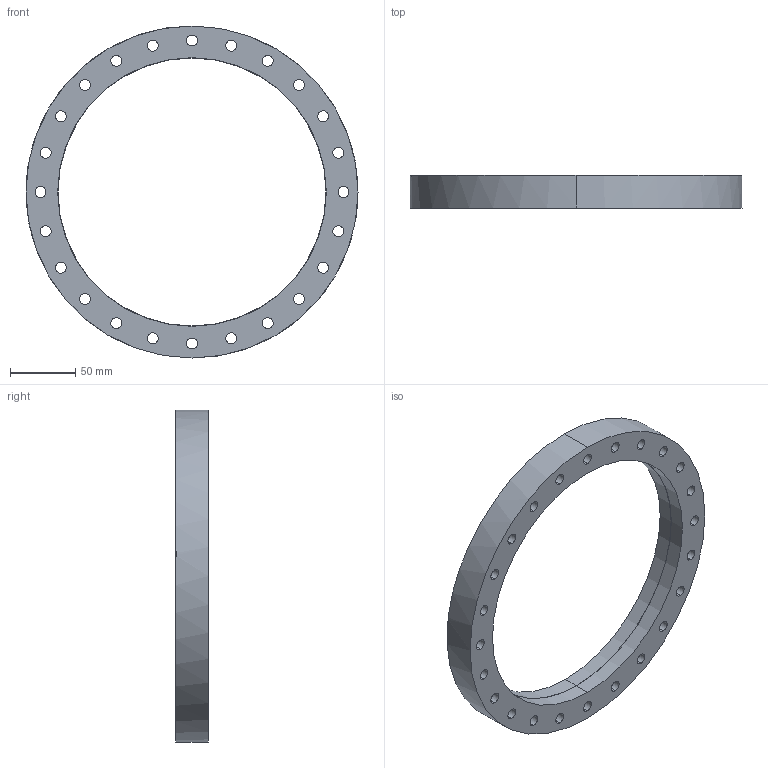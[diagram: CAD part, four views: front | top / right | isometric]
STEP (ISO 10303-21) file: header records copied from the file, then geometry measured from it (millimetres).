
FILE_DESCRIPTION (( 'STEP AP214' ), '1' );
FILE_NAME ('W6CFF200.STEP', '2021-05-14T13:38:56', ( '' ), ( '' ), 'SwSTEP 2.0', 'SolidWorks 2020', '' );
FILE_SCHEMA (( 'AUTOMOTIVE_DESIGN' ));
Length unit declared in the file: millimetre
Products named in the file (1): W6CFF200
Bounding box: 254 x 25 x 254 mm (x, y, z)
Volume: 399663.2 mm3; surface area: 84975.3 mm2
Topology: 1 solids, 1 shells, 73 faces, 200 edges, 130 vertices
Faces by surface type: cylinder 58, torus 6, plane 5, cone 4
Entity records: 2580 total; most frequent: DIRECTION 476, CARTESIAN_POINT 472, ORIENTED_EDGE 400, AXIS2_PLACEMENT_3D 206, EDGE_CURVE 200, CIRCLE 132, VERTEX_POINT 130, EDGE_LOOP 124
